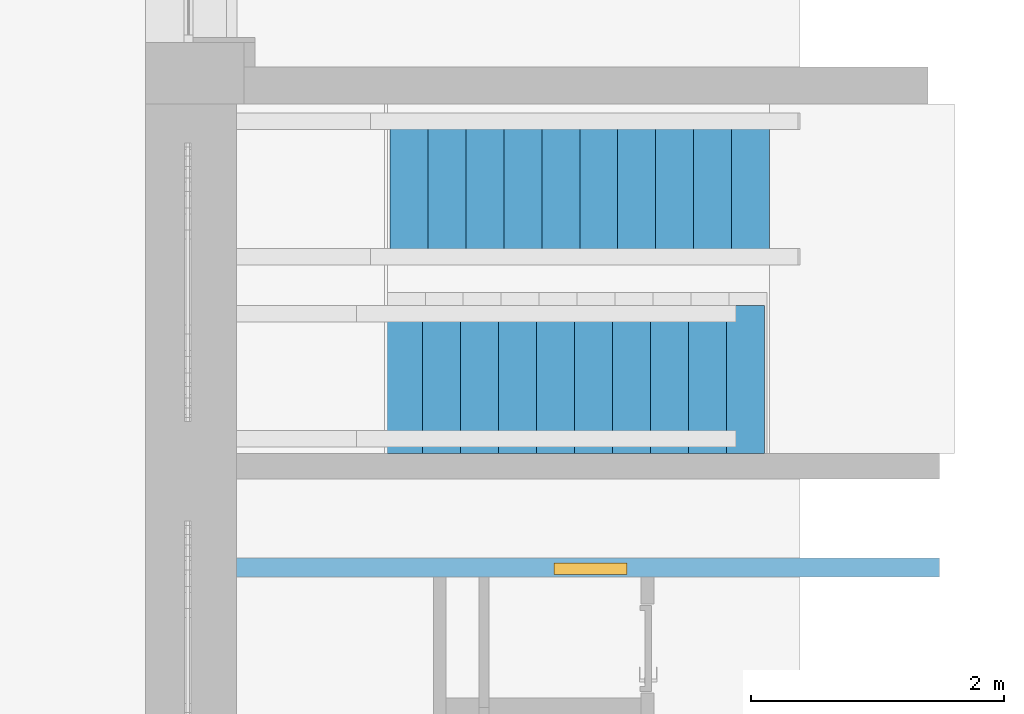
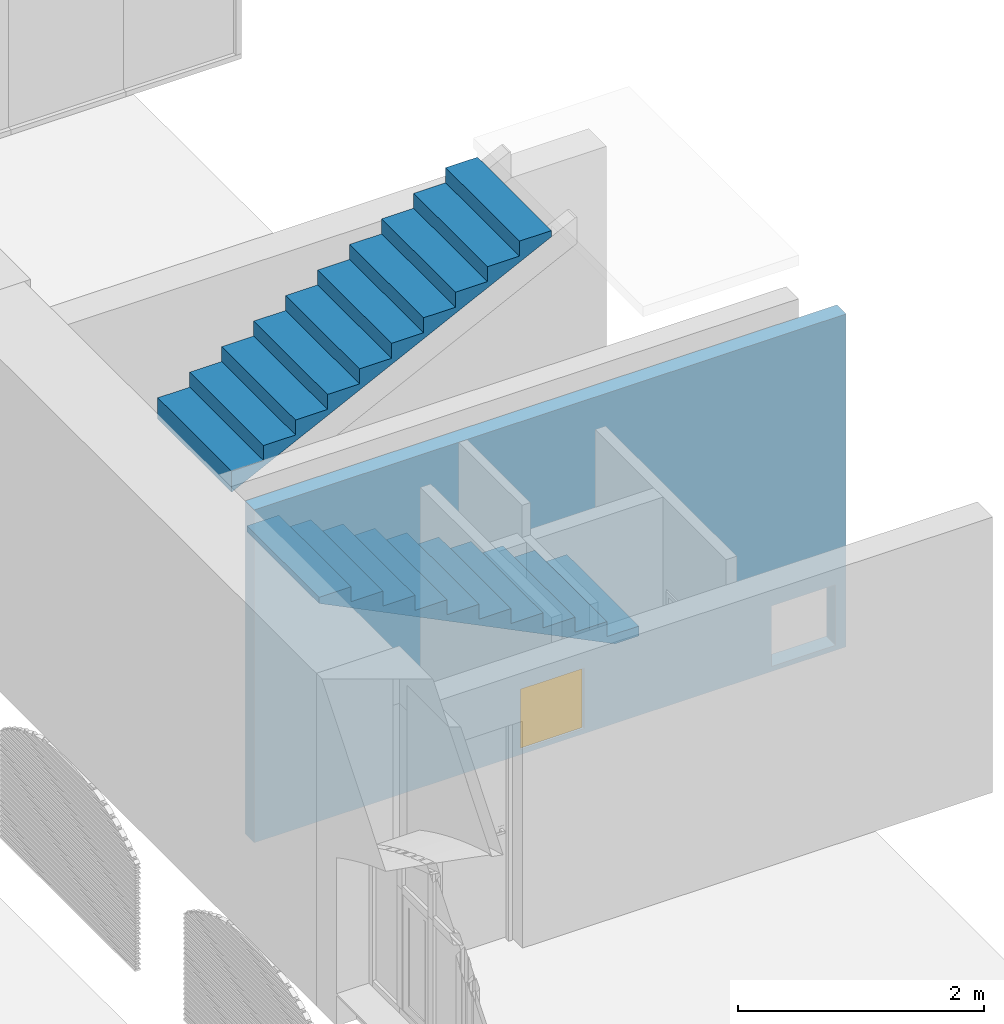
# One storey, part 81 of 88: 2 stair flights, 1 door, 2 openings, 2 elements without a shape of their own, plus 1 element that does not belong to this part.
"""IFC2X3 building model written with IfcOpenShell, lengths in millimetres."""

from ifc_helpers import new_model, entity, si_unit, converted_unit, derived_unit, direction, frame, frame_2d, origin, place, context, subcontext, project, spatial, rectangle, extrude, faceted_brep, source, transform, mapped, material, layer, layer_set, layer_usage, type_object, type_shapes, element, fill, aggregate, save


model = new_model("IFC2X3")

# Units and contexts
model_context = context("Model", 3, precision=0.01, world=origin(), true_north=direction((6.123031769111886e-17, 1.0)))
body_context = subcontext(model_context, "Body", "Model", "MODEL_VIEW")
ifc_project = project(units=[si_unit("LENGTHUNIT", "METRE", prefix="MILLI"), si_unit("AREAUNIT", "SQUARE_METRE"), si_unit("VOLUMEUNIT", "CUBIC_METRE"), converted_unit("PLANEANGLEUNIT", "DEGREE", entity("IfcPlaneAngleMeasure", 0.017453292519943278), si_unit("PLANEANGLEUNIT", "RADIAN"), dimensions=[0, 0, 0, 0, 0, 0, 0]), si_unit("MASSUNIT", "GRAM", prefix="KILO"), derived_unit("MASSDENSITYUNIT", [(si_unit("MASSUNIT", "GRAM", prefix="KILO"), 1), (si_unit("LENGTHUNIT", "METRE"), -3)]), derived_unit("IONCONCENTRATIONUNIT", [(si_unit("MASSUNIT", "GRAM", prefix="KILO"), 1), (si_unit("LENGTHUNIT", "METRE"), -3)]), derived_unit("MOMENTOFINERTIAUNIT", [(si_unit("LENGTHUNIT", "METRE"), 4)]), si_unit("TIMEUNIT", "SECOND"), si_unit("FREQUENCYUNIT", "HERTZ"), si_unit("THERMODYNAMICTEMPERATUREUNIT", "DEGREE_CELSIUS"), derived_unit("THERMALTRANSMITTANCEUNIT", [(si_unit("MASSUNIT", "GRAM", prefix="KILO"), 1), (si_unit("THERMODYNAMICTEMPERATUREUNIT", "KELVIN"), -1), (si_unit("TIMEUNIT", "SECOND"), -3)]), derived_unit("THERMALCONDUCTANCEUNIT", [(si_unit("MASSUNIT", "GRAM", prefix="KILO"), 1), (si_unit("THERMODYNAMICTEMPERATUREUNIT", "KELVIN"), -1), (si_unit("TIMEUNIT", "SECOND"), -3), (si_unit("LENGTHUNIT", "METRE"), 1)]), derived_unit("VOLUMETRICFLOWRATEUNIT", [(si_unit("LENGTHUNIT", "METRE", prefix="DECI"), 3), (si_unit("TIMEUNIT", "SECOND"), -1)]), derived_unit("MASSFLOWRATEUNIT", [(si_unit("MASSUNIT", "GRAM", prefix="KILO"), 1), (si_unit("TIMEUNIT", "SECOND"), -1)]), derived_unit("ROTATIONALFREQUENCYUNIT", [(si_unit("TIMEUNIT", "SECOND"), -1)]), si_unit("ELECTRICCURRENTUNIT", "AMPERE"), si_unit("ELECTRICVOLTAGEUNIT", "VOLT"), si_unit("POWERUNIT", "WATT"), si_unit("FORCEUNIT", "NEWTON", prefix="KILO"), si_unit("ILLUMINANCEUNIT", "LUX"), si_unit("LUMINOUSFLUXUNIT", "LUMEN"), si_unit("LUMINOUSINTENSITYUNIT", "CANDELA"), si_unit("ENERGYUNIT", "JOULE"), derived_unit("USERDEFINED", [(si_unit("MASSUNIT", "GRAM", prefix="KILO"), -1), (si_unit("LENGTHUNIT", "METRE"), -2), (si_unit("TIMEUNIT", "SECOND"), 3), (si_unit("LUMINOUSFLUXUNIT", "LUMEN"), 1)]), derived_unit("USERDEFINED", [(si_unit("MASSUNIT", "GRAM", prefix="KILO"), 1), (si_unit("TIMEUNIT", "SECOND"), -3), (si_unit("LENGTHUNIT", "METRE"), 3), (si_unit("ELECTRICCURRENTUNIT", "AMPERE"), -2)]), derived_unit("SOUNDPOWERUNIT", [(si_unit("MASSUNIT", "GRAM", prefix="KILO"), 1), (si_unit("TIMEUNIT", "SECOND"), -3), (si_unit("LENGTHUNIT", "METRE"), 2)]), derived_unit("SOUNDPRESSUREUNIT", [(si_unit("MASSUNIT", "GRAM", prefix="KILO"), 1), (si_unit("LENGTHUNIT", "METRE"), -1), (si_unit("TIMEUNIT", "SECOND"), -2)]), derived_unit("LINEARVELOCITYUNIT", [(si_unit("LENGTHUNIT", "METRE"), 1), (si_unit("TIMEUNIT", "SECOND"), -1)]), si_unit("PRESSUREUNIT", "PASCAL"), derived_unit("USERDEFINED", [(si_unit("MASSUNIT", "GRAM", prefix="KILO"), 1), (si_unit("LENGTHUNIT", "METRE"), -2), (si_unit("TIMEUNIT", "SECOND"), -2)]), derived_unit("LINEARFORCEUNIT", [(si_unit("MASSUNIT", "GRAM", prefix="KILO"), 1), (si_unit("TIMEUNIT", "SECOND"), -2)]), derived_unit("PLANARFORCEUNIT", [(si_unit("MASSUNIT", "GRAM", prefix="KILO"), 1), (si_unit("LENGTHUNIT", "METRE"), -1), (si_unit("TIMEUNIT", "SECOND"), -2)]), derived_unit("SPECIFICHEATCAPACITYUNIT", [(si_unit("THERMODYNAMICTEMPERATUREUNIT", "KELVIN"), -1), (si_unit("LENGTHUNIT", "METRE"), 2), (si_unit("TIMEUNIT", "SECOND"), -2)]), derived_unit("HEATFLUXDENSITYUNIT", [(si_unit("MASSUNIT", "GRAM", prefix="KILO"), 1), (si_unit("TIMEUNIT", "SECOND"), -3)]), derived_unit("HEATINGVALUEUNIT", [(si_unit("LENGTHUNIT", "METRE"), 2), (si_unit("TIMEUNIT", "SECOND"), -2)]), derived_unit("VAPORPERMEABILITYUNIT", [(si_unit("LENGTHUNIT", "METRE"), -1), (si_unit("TIMEUNIT", "SECOND"), 1)]), derived_unit("DYNAMICVISCOSITYUNIT", [(si_unit("MASSUNIT", "GRAM", prefix="KILO"), 1), (si_unit("TIMEUNIT", "SECOND"), -1), (si_unit("LENGTHUNIT", "METRE"), -1)]), derived_unit("THERMALEXPANSIONCOEFFICIENTUNIT", [(si_unit("THERMODYNAMICTEMPERATUREUNIT", "KELVIN"), -1)]), derived_unit("MODULUSOFELASTICITYUNIT", [(si_unit("MASSUNIT", "GRAM", prefix="KILO"), 1), (si_unit("LENGTHUNIT", "METRE"), -1), (si_unit("TIMEUNIT", "SECOND"), -2)]), derived_unit("ISOTHERMALMOISTURECAPACITYUNIT", [(si_unit("MASSUNIT", "GRAM", prefix="KILO"), -1), (si_unit("LENGTHUNIT", "METRE"), 3)]), derived_unit("MOISTUREDIFFUSIVITYUNIT", [(si_unit("TIMEUNIT", "SECOND"), -1), (si_unit("LENGTHUNIT", "METRE"), 2)]), derived_unit("MASSPERLENGTHUNIT", [(si_unit("MASSUNIT", "GRAM", prefix="KILO"), 1), (si_unit("LENGTHUNIT", "METRE"), -1)]), derived_unit("THERMALRESISTANCEUNIT", [(si_unit("MASSUNIT", "GRAM", prefix="KILO"), -1), (si_unit("TIMEUNIT", "SECOND"), 3), (si_unit("THERMODYNAMICTEMPERATUREUNIT", "KELVIN"), 1)]), derived_unit("ACCELERATIONUNIT", [(si_unit("LENGTHUNIT", "METRE"), 1), (si_unit("TIMEUNIT", "SECOND"), -2)]), derived_unit("ANGULARVELOCITYUNIT", [(si_unit("TIMEUNIT", "SECOND"), -1), (si_unit("PLANEANGLEUNIT", "RADIAN"), 1)]), derived_unit("LINEARSTIFFNESSUNIT", [(si_unit("MASSUNIT", "GRAM", prefix="KILO"), 1), (si_unit("TIMEUNIT", "SECOND"), -2)]), derived_unit("WARPINGCONSTANTUNIT", [(si_unit("LENGTHUNIT", "METRE"), 6)]), derived_unit("LINEARMOMENTUNIT", [(si_unit("MASSUNIT", "GRAM", prefix="KILO"), 1), (si_unit("LENGTHUNIT", "METRE"), 1), (si_unit("TIMEUNIT", "SECOND"), -2)]), derived_unit("TORQUEUNIT", [(si_unit("MASSUNIT", "GRAM", prefix="KILO"), 1), (si_unit("LENGTHUNIT", "METRE"), 2), (si_unit("TIMEUNIT", "SECOND"), -2)])], contexts=[model_context])

# Site, building, storey
site_placement = place(None, origin())
site = spatial("IfcSite", under=ifc_project, at=site_placement, Name="Default", CompositionType="ELEMENT")
building_placement = place(site_placement, origin())
building = spatial("IfcBuilding", under=site, at=building_placement, Name="Eesti Rahvusraamatukogu hoone renoveerimise projekteerimistööd", CompositionType="ELEMENT")
storey_placement = place(building_placement, origin())
storey = spatial("IfcBuildingStorey", under=building, at=storey_placement, Name="1. korrus", CompositionType="ELEMENT", Elevation=0.0)

# Wall, openings, door
ifc_material_1 = material(Name="EST. Müüritis. Väikeplokk. Betoon-õõnesplokk")
ifc_layer = layer(ifc_material_1, 150.0)
ifc_layer_set = layer_set([ifc_layer], Name="Basic Wall:SS-71 - 150 poorbetoon acoustic")
ifc_layer_usage = layer_usage(ifc_layer_set, "AXIS2", "NEGATIVE", 75.0)
wall_type = type_object("IfcWallType", Name="Basic Wall:SS-71 - 150 poorbetoon acoustic", PredefinedType="STANDARD", material=ifc_layer_set)
wall_placement = place(storey_placement, frame((-36060.0, 26645.0, 1650.0)))
wall = element("IfcWallStandardCase", 1, at=wall_placement, inside=storey, type_object=wall_type, material=ifc_layer_usage, Name="Basic Wall:SS-71 - 150 poorbetoon acoustic", ObjectType="Basic Wall:SS-71 - 150 poorbetoon acoustic", context=body_context, shape_type="SweptSolid", body=[
    extrude(rectangle(XDim=5550.00000000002, YDim=150.00000000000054, at=frame_2d((2775.00000000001, 0.0), x_axis=(-1.0, 0.0))), origin(), (0.0, 0.0, 1.0), 3300.000000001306),
])
opening_1_placement = place(wall_placement, frame((3095.0, 75.0, 50.0)))
opening_1 = element("IfcOpeningElement", 2, at=opening_1_placement, cuts=wall, Name="SMA_hooldusluuk:hooldusluuk 600x600mm TTK:1", ObjectType="Opening", context=body_context, shape_type="SweptSolid", body=[
    extrude(rectangle(XDim=599.9999999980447, YDim=599.9999999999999, at=frame_2d((299.99999999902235, 299.99999999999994), x_axis=(1.0, 0.0))), frame((0.0, 0.0, 0.0), z_axis=(0.0, -1.0, 0.0), x_axis=(0.0, 0.0, 1.0)), (0.0, 0.0, 1.0), 150.0),
])
opening_2_placement = place(wall_placement, frame((36060.0, -26645.0, 50.0)))
element("IfcOpeningElement", 3, at=opening_2_placement, cuts=wall, Name="Basic Wall:SS-71 - 150 poorbetoon acoustic", ObjectType="Opening", context=body_context, shape_type="SweptSolid", body=[
    extrude(rectangle(XDim=599.9999999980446, YDim=599.9999999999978, at=frame_2d((1.4210854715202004e-13, -2.1600499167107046e-12), x_axis=(1.0, 0.0))), frame((-30910.0, 25196.0, 300.0), z_axis=(0.0, 1.0, 0.0), x_axis=(0.0, 0.0, 1.0)), (0.0, 0.0, 1.0), 3048.0),
])
ifc_material_2 = material(Name="EST. Metall. Alumiinium. Värvitud.")
door_style = type_object("IfcDoorStyle", Name="SMA_hooldusluuk:hooldusluuk 600x600mm TTK", ConstructionType="NOTDEFINED", OperationType="NOTDEFINED", ParameterTakesPrecedence=False, Sizeable=False, material=ifc_material_2)
shared_shape = source(origin(), body_context, "Body", "Brep", [
    faceted_brep([(550.0, 40.0, 30.0), (550.0, 40.0, 0.0), (550.0, 80.0, 0.0), (550.0, 80.0, 20.0), (550.0, 80.0, 30.0), (50.0, 40.0, 30.0), (50.0, 80.0, 30.0), (50.0, 80.0, 20.0), (50.0, 80.0, 0.0), (50.0, 40.0, 0.0), (35.0, 80.0, 0.0), (35.0, 130.0, 0.0), (565.0, 130.0, 0.0), (565.0, 80.0, 0.0), (565.0, 130.0, 20.0), (565.0, 80.0, 20.0), (35.0, 130.0, 20.0), (35.0, 80.0, 20.0)], [[[0, 1, 2, 3, 4]], [[5, 6, 7, 8, 9]], [[1, 0, 5, 9]], [[2, 1, 9, 8, 10, 11, 12, 13]], [[6, 4, 3, 7]], [[0, 4, 6, 5]], [[14, 15, 13, 12]], [[16, 11, 10, 17]], [[15, 14, 16, 17, 7, 3]], [[13, 15, 3, 2]], [[14, 12, 11, 16]], [[17, 10, 8, 7]]]),
    faceted_brep([(590.0, 40.0, 0.0), (550.0, 40.0, 0.0), (550.0, 80.0, 0.0), (565.0, 80.0, 0.0), (565.0, 130.0, 0.0), (590.0, 130.0, 0.0), (590.0, 40.0, 589.9999999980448), (10.0, 40.0, 589.9999999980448), (10.0, 40.0, 0.0), (50.0, 40.0, 0.0), (50.0, 40.0, 549.9999999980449), (550.0, 40.0, 549.9999999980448), (550.0, 80.0, 549.9999999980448), (50.0, 80.0, 549.9999999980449), (50.0, 80.0, 0.0), (35.0, 80.0, 0.0), (35.0, 80.0, 564.9999999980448), (565.0, 80.0, 564.9999999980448), (565.0, 130.0, 564.9999999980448), (35.0, 130.0, 564.9999999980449), (35.0, 130.0, 0.0), (10.0, 130.0, 0.0), (10.0, 130.0, 589.9999999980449), (590.0, 130.0, 589.9999999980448)], [[[0, 1, 2, 3, 4, 5]], [[1, 0, 6, 7, 8, 9, 10, 11]], [[2, 1, 11, 12]], [[3, 2, 12, 13, 14, 15, 16, 17]], [[4, 3, 17, 18]], [[5, 4, 18, 19, 20, 21, 22, 23]], [[0, 5, 23, 6]], [[12, 11, 10, 13]], [[18, 17, 16, 19]], [[6, 23, 22, 7]], [[8, 21, 20, 15, 14, 9]], [[13, 10, 9, 14]], [[19, 16, 15, 20]], [[7, 22, 21, 8]]]),
    faceted_brep([(35.0, 80.0, 564.9999999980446), (35.0, 80.0, 20.0), (565.0, 80.0, 20.0), (565.0, 80.0, 564.9999999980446), (35.0, 130.0, 564.9999999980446), (565.0, 130.0, 564.9999999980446), (565.0, 130.0, 20.0), (35.0, 130.0, 20.0)], [[[0, 1, 2, 3]], [[4, 5, 6, 7]], [[1, 0, 4, 7]], [[2, 1, 7, 6]], [[3, 2, 6, 5]], [[0, 3, 5, 4]]]),
])
type_shapes(door_style, [shared_shape])
door_placement = place(opening_1_placement, frame((0.0, 0.0, 0.0), z_axis=(0.0, 0.0, 1.0), x_axis=(-1.0, 0.0, 0.0)))
door = element("IfcDoor", 4, at=door_placement, inside=storey, type_object=door_style, material=ifc_material_2, Name="SMA_hooldusluuk:hooldusluuk 600x600mm TTK", ObjectType="SMA_hooldusluuk:hooldusluuk 600x600mm TTK", OverallHeight=599.9999999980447, OverallWidth=600.0000000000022, context=body_context, shape_type="MappedRepresentation", body=[
    mapped(shared_shape, transform((0.0, 0.0, 0.0), scale=1.0)),
])
fill(opening_1, door)

# Stair, stair flight
stair_1_placement = place(storey_placement, origin())
stair_1 = element("IfcStair", 5, at=stair_1_placement, inside=storey, Name="Cast-In-Place Stair:Stair", ObjectType="Cast-In-Place Stair:ol. olev trepp, 150x300 H=55", ShapeType="STRAIGHT_RUN_STAIR")
ifc_material_3 = material(Name="ol. olev materjal")
stair_flight_type = type_object("IfcStairFlightType", Name="Monolithic Run:Monolithic Run 55mm", PredefinedType="STRAIGHT")
stair_flight_1_placement = place(stair_1_placement, frame((-34890.0, 27545.0, 0.0)))
stair_flight_1 = element("IfcStairFlight", 6, at=stair_flight_1_placement, type_object=stair_flight_type, material=ifc_material_3, Name="Cast-In-Place Stair:Stair:4087577 Run 1", ObjectType="Monolithic Run:Monolithic Run 55mm", NumberOfRiser=11, NumberOfTreads=10, RiserHeight=0.48665791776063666, TreadLength=0.984251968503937, context=body_context, shape_type="Brep", body=[
    faceted_brep([(2700.0, 0.0, 1748.3333333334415), (3000.0, 0.0, 1748.3333333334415), (3000.0, 1170.0, 1748.3333333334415), (2700.0, 1170.0, 1748.3333333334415), (2700.0, 0.0, 1686.977503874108), (2774.7859628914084, 0.0, 1650.0), (3000.0, 0.0, 1650.0), (3000.0, 1170.0, 1650.0), (2774.785962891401, 1170.0, 1650.0), (2700.0, 1170.0, 1686.9775038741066), (2400.0, 0.0, 1896.6666666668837), (2700.0, 0.0, 1896.6666666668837), (2700.0, 1170.0, 1896.6666666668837), (2400.0, 1170.0, 1896.6666666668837), (2400.0, 0.0, 1835.3108372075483), (2400.0, 1170.0, 1835.3108372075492), (2100.0, 0.0, 2045.0), (2400.0, 0.0, 2045.0), (2400.0, 1170.0, 2045.0), (2100.0, 1170.0, 2045.0), (2100.0, 0.0, 1983.644170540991), (2100.0, 1170.0, 1983.6441705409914), (1800.0, 0.0, 2193.3333333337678), (2100.0, 0.0, 2193.3333333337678), (2100.0, 1170.0, 2193.3333333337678), (1800.0, 1170.0, 2193.3333333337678), (1800.0, 0.0, 2131.9775038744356), (1800.0, 1170.0, 2131.9775038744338), (1500.0, 0.0, 2280.3108372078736), (1200.0, 0.0, 2428.6441705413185), (900.0, 0.0, 2576.977503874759), (600.0, 0.0, 2725.3108372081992), (300.0, 0.0, 2873.644170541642), (0.0, 0.0, 3021.977503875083), (0.0, 1170.0, 3021.9775038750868), (300.0, 1170.0, 2873.644170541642), (600.0, 1170.0, 2725.3108372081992), (900.0, 1170.0, 2576.977503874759), (1200.0, 1170.0, 2428.6441705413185), (1500.0, 1170.0, 2280.3108372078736), (1500.0, 0.0, 2341.66666666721), (1800.0, 0.0, 2341.66666666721), (1800.0, 1170.0, 2341.66666666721), (1500.0, 1170.0, 2341.66666666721), (1200.0, 0.0, 2490.0), (1500.0, 0.0, 2490.0), (1500.0, 1170.0, 2490.0), (1200.0, 1170.0, 2490.0), (900.0, 0.0, 2638.3333333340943), (1200.0, 0.0, 2638.3333333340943), (1200.0, 1170.0, 2638.3333333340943), (900.0, 1170.0, 2638.3333333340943), (600.0, 0.0, 2786.666666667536), (900.0, 0.0, 2786.666666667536), (900.0, 1170.0, 2786.666666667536), (600.0, 1170.0, 2786.666666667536), (300.0, 0.0, 2935.0), (600.0, 0.0, 2935.0), (600.0, 1170.0, 2935.0), (300.0, 1170.0, 2935.0), (0.0, 0.0, 3083.3333333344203), (300.0, 0.0, 3083.3333333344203), (300.0, 1170.0, 3083.3333333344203), (0.0, 1170.0, 3083.3333333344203)], [[[0, 1, 2, 3]], [[1, 0, 4, 5, 6]], [[2, 1, 6, 7]], [[3, 2, 7, 8, 9]], [[10, 11, 12, 13]], [[11, 10, 14, 4, 0]], [[0, 3, 12, 11]], [[13, 12, 3, 9, 15]], [[16, 17, 18, 19]], [[17, 16, 20, 14, 10]], [[10, 13, 18, 17]], [[19, 18, 13, 15, 21]], [[22, 23, 24, 25]], [[23, 22, 26, 20, 16]], [[16, 19, 24, 23]], [[25, 24, 19, 21, 27]], [[7, 6, 5, 8]], [[8, 5, 4, 14, 20, 26, 28, 29, 30, 31, 32, 33, 34, 35, 36, 37, 38, 39, 27, 21, 15, 9]], [[40, 41, 42, 43]], [[41, 40, 28, 26, 22]], [[22, 25, 42, 41]], [[43, 42, 25, 27, 39]], [[44, 45, 46, 47]], [[45, 44, 29, 28, 40]], [[40, 43, 46, 45]], [[47, 46, 43, 39, 38]], [[48, 49, 50, 51]], [[49, 48, 30, 29, 44]], [[44, 47, 50, 49]], [[51, 50, 47, 38, 37]], [[52, 53, 54, 55]], [[53, 52, 31, 30, 48]], [[48, 51, 54, 53]], [[55, 54, 51, 37, 36]], [[56, 57, 58, 59]], [[57, 56, 32, 31, 52]], [[52, 55, 58, 57]], [[59, 58, 55, 36, 35]], [[60, 61, 62, 63]], [[61, 60, 33, 32, 56]], [[56, 59, 62, 61]], [[63, 62, 59, 35, 34]], [[60, 63, 34, 33]]]),
])
aggregate(stair_1, [stair_flight_1])

stair_2_placement = place(storey_placement, origin())
stair_2 = element("IfcStair", 7, at=stair_2_placement, inside=storey, Name="Cast-In-Place Stair:Stair", ObjectType="Cast-In-Place Stair:ol. olev trepp, 150x300 H=55", ShapeType="STRAIGHT_RUN_STAIR")
stair_flight_2_placement = place(stair_2_placement, frame((-34850.0, 29035.0, 0.0)))
stair_flight_2 = element("IfcStairFlight", 8, at=stair_flight_2_placement, type_object=stair_flight_type, material=ifc_material_3, Name="Cast-In-Place Stair:Stair:4087629 Run 1", ObjectType="Monolithic Run:Monolithic Run 55mm", NumberOfRiser=11, NumberOfTreads=10, RiserHeight=0.4866579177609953, TreadLength=0.984251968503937, context=body_context, shape_type="Brep", body=[
    faceted_brep([(300.0, 1200.0, 3416.6666666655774), (0.0, 1200.0, 3416.6666666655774), (0.0, 0.0, 3416.6666666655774), (300.0, 0.0, 3416.6666666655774), (0.0, 0.0, 3206.9775038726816), (300.0, 0.0, 3355.310837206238), (0.0, 1200.0, 3206.9775038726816), (300.0, 1200.0, 3355.3108372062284), (600.0, 1200.0, 3565.0), (300.0, 1200.0, 3565.0), (300.0, 0.0, 3565.0), (600.0, 0.0, 3565.0), (600.0, 0.0, 3503.644170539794), (600.0, 1200.0, 3503.6441705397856), (900.0, 1200.0, 3713.3333333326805), (600.0, 1200.0, 3713.3333333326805), (600.0, 0.0, 3713.3333333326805), (900.0, 0.0, 3713.3333333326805), (900.0, 0.0, 3651.9775038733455), (900.0, 1200.0, 3651.977503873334), (1200.0, 1200.0, 3861.666666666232), (900.0, 1200.0, 3861.666666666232), (900.0, 0.0, 3861.666666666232), (1200.0, 0.0, 3861.666666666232), (1200.0, 0.0, 3800.310837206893), (1200.0, 1200.0, 3800.3108372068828), (1500.0, 1200.0, 3948.644170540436), (1800.0, 1200.0, 4096.9775038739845), (2100.0, 1200.0, 4245.310837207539), (2400.0, 1200.0, 4393.644170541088), (2700.0, 1200.0, 4541.9775038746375), (3000.0, 1200.0, 4690.310837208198), (3000.0, 0.0, 4690.310837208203), (2700.0, 0.0, 4541.9775038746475), (2400.0, 0.0, 4393.644170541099), (2100.0, 0.0, 4245.3108372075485), (1800.0, 0.0, 4096.977503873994), (1500.0, 0.0, 3948.644170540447), (1500.0, 1200.0, 4010.0), (1200.0, 1200.0, 4010.0), (1200.0, 0.0, 4010.0), (1500.0, 0.0, 4010.0), (1800.0, 1200.0, 4158.333333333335), (1500.0, 1200.0, 4158.333333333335), (1500.0, 0.0, 4158.333333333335), (1800.0, 0.0, 4158.333333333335), (2100.0, 1200.0, 4306.666666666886), (1800.0, 1200.0, 4306.666666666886), (1800.0, 0.0, 4306.666666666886), (2100.0, 0.0, 4306.666666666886), (2400.0, 1200.0, 4455.0), (2100.0, 1200.0, 4455.0), (2100.0, 0.0, 4455.0), (2400.0, 0.0, 4455.0), (2700.0, 1200.0, 4603.333333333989), (2400.0, 1200.0, 4603.333333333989), (2400.0, 0.0, 4603.333333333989), (2700.0, 0.0, 4603.333333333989), (3000.0, 1200.0, 4751.66666666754), (2700.0, 1200.0, 4751.66666666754), (2700.0, 0.0, 4751.66666666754), (3000.0, 0.0, 4751.66666666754)], [[[0, 1, 2, 3]], [[3, 2, 4, 5]], [[2, 1, 6, 4]], [[1, 0, 7, 6]], [[8, 9, 10, 11]], [[11, 10, 3, 5, 12]], [[0, 3, 10, 9]], [[9, 8, 13, 7, 0]], [[14, 15, 16, 17]], [[17, 16, 11, 12, 18]], [[8, 11, 16, 15]], [[15, 14, 19, 13, 8]], [[20, 21, 22, 23]], [[23, 22, 17, 18, 24]], [[14, 17, 22, 21]], [[21, 20, 25, 19, 14]], [[6, 7, 13, 19, 25, 26, 27, 28, 29, 30, 31, 32, 33, 34, 35, 36, 37, 24, 18, 12, 5, 4]], [[38, 39, 40, 41]], [[41, 40, 23, 24, 37]], [[20, 23, 40, 39]], [[39, 38, 26, 25, 20]], [[42, 43, 44, 45]], [[45, 44, 41, 37, 36]], [[38, 41, 44, 43]], [[43, 42, 27, 26, 38]], [[46, 47, 48, 49]], [[49, 48, 45, 36, 35]], [[42, 45, 48, 47]], [[47, 46, 28, 27, 42]], [[50, 51, 52, 53]], [[53, 52, 49, 35, 34]], [[46, 49, 52, 51]], [[51, 50, 29, 28, 46]], [[54, 55, 56, 57]], [[57, 56, 53, 34, 33]], [[50, 53, 56, 55]], [[55, 54, 30, 29, 50]], [[58, 59, 60, 61]], [[61, 60, 57, 33, 32]], [[54, 57, 60, 59]], [[59, 58, 31, 30, 54]], [[58, 61, 32, 31]]]),
])
aggregate(stair_2, [stair_flight_2])

save(model, "model.ifc")
